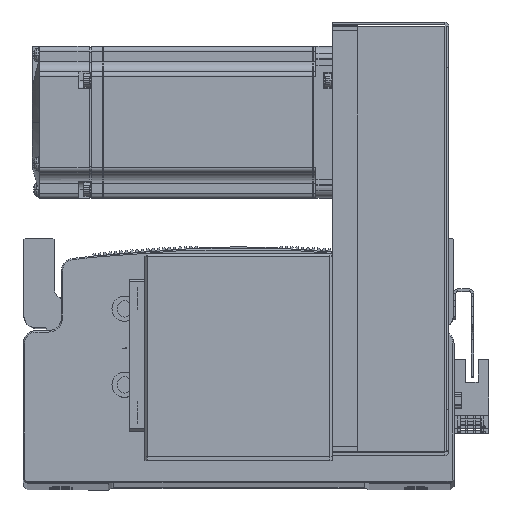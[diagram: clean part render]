
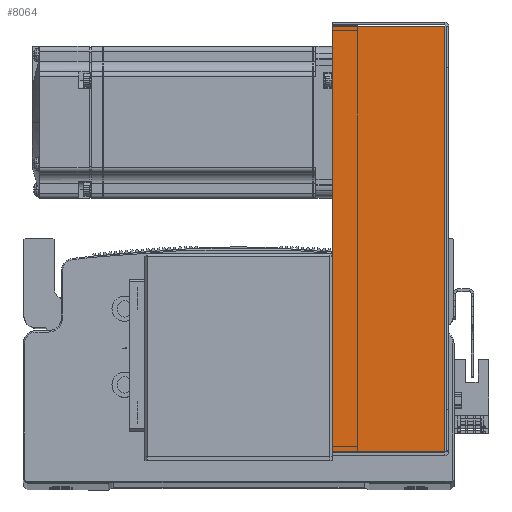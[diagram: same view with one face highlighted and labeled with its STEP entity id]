
A CAD part, top view. The second image highlights one B-rep face of the part: STEP entity #8064.
In plain terms, the highlighted planar face has unit normal (0, 0, 1).
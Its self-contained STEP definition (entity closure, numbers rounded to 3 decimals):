
#2865 = ORIENTED_EDGE ( 'NONE', *, *, #54119, .F. ) ;
#2881 = ORIENTED_EDGE ( 'NONE', *, *, #54143, .T. ) ;
#2921 = ORIENTED_EDGE ( 'NONE', *, *, #54111, .F. ) ;
#3021 = ORIENTED_EDGE ( 'NONE', *, *, #54127, .T. ) ;
#8064 = ADVANCED_FACE ( 'NONE', ( #70425 ), #69342, .F. ) ;
#11994 = AXIS2_PLACEMENT_3D ( 'NONE', #69343, #69325, #69307 ) ;
#19623 = VERTEX_POINT ( 'NONE', #45083 ) ;
#19661 = VERTEX_POINT ( 'NONE', #45044 ) ;
#19722 = VERTEX_POINT ( 'NONE', #45204 ) ;
#19742 = VERTEX_POINT ( 'NONE', #42508 ) ;
#38523 = LINE ( 'NONE', #63313, #38732 ) ;
#38703 = LINE ( 'NONE', #63448, #38705 ) ;
#38705 = VECTOR ( 'NONE', #63435, 1000. ) ;
#38722 = VECTOR ( 'NONE', #63365, 1000. ) ;
#38728 = VECTOR ( 'NONE', #63389, 1000. ) ;
#38732 = VECTOR ( 'NONE', #63300, 1000. ) ;
#38766 = LINE ( 'NONE', #63348, #38722 ) ;
#38785 = LINE ( 'NONE', #63369, #38728 ) ;
#42508 = CARTESIAN_POINT ( 'NONE',  ( -83.793, 0.737, 40.5 ) ) ;
#45044 = CARTESIAN_POINT ( 'NONE',  ( -83.793, 45., 40.5 ) ) ;
#45083 = CARTESIAN_POINT ( 'NONE',  ( 83.793, 45., 40.5 ) ) ;
#45204 = CARTESIAN_POINT ( 'NONE',  ( 83.793, 0.737, 40.5 ) ) ;
#54111 = EDGE_CURVE ( 'NONE', #19742, #19661, #38523, .T. ) ;
#54119 = EDGE_CURVE ( 'NONE', #19722, #19742, #38766, .T. ) ;
#54127 = EDGE_CURVE ( 'NONE', #19623, #19661, #38785, .T. ) ;
#54143 = EDGE_CURVE ( 'NONE', #19722, #19623, #38703, .T. ) ;
#60306 = EDGE_LOOP ( 'NONE', ( #2865, #2881, #3021, #2921 ) ) ;
#63300 = DIRECTION ( 'NONE',  ( 0., 1., 0. ) ) ;
#63313 = CARTESIAN_POINT ( 'NONE',  ( -83.793, 0., 40.5 ) ) ;
#63348 = CARTESIAN_POINT ( 'NONE',  ( 0., 0.737, 40.5 ) ) ;
#63365 = DIRECTION ( 'NONE',  ( -1., 0., 0. ) ) ;
#63369 = CARTESIAN_POINT ( 'NONE',  ( -84.5, 45., 40.5 ) ) ;
#63389 = DIRECTION ( 'NONE',  ( -1., 0., 0. ) ) ;
#63435 = DIRECTION ( 'NONE',  ( 0., 1., 0. ) ) ;
#63448 = CARTESIAN_POINT ( 'NONE',  ( 83.793, 0., 40.5 ) ) ;
#69307 = DIRECTION ( 'NONE',  ( -1., 0., 0. ) ) ;
#69325 = DIRECTION ( 'NONE',  ( 0., 0., -1. ) ) ;
#69342 = PLANE ( 'NONE',  #11994 ) ;
#69343 = CARTESIAN_POINT ( 'NONE',  ( 0., 0., 40.5 ) ) ;
#70425 = FACE_OUTER_BOUND ( 'NONE', #60306, .T. ) ;
